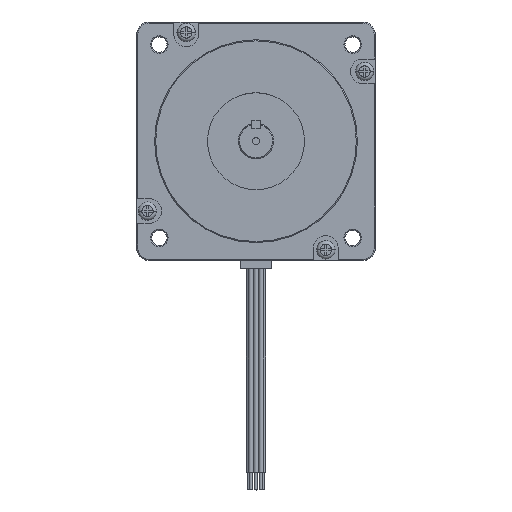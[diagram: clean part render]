
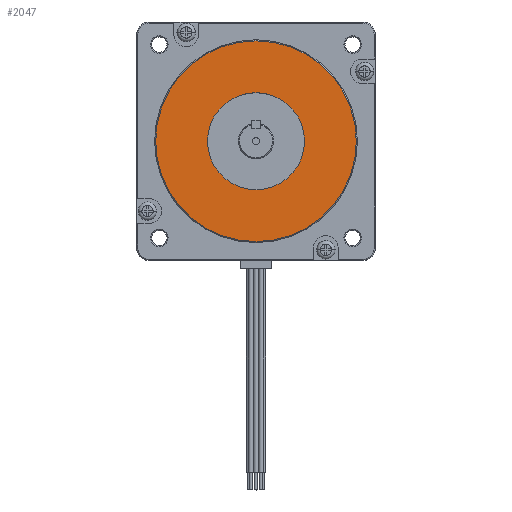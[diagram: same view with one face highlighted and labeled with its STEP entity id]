
A CAD part, top view. The second image highlights one B-rep face of the part: STEP entity #2047.
In plain terms, the highlighted planar face has unit normal (0, 0, 1).
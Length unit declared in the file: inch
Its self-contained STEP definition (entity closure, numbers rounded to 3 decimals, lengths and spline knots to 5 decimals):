
#97 = EDGE_CURVE ( 'NONE', #17895, #17919, #13749, .T. ) ;
#2047 = ADVANCED_FACE ( 'NONE', ( #4925, #4928 ), #4955, .T. ) ;
#2175 = EDGE_CURVE ( 'NONE', #17919, #17895, #5240, .T. ) ;
#2178 = ORIENTED_EDGE ( 'NONE', *, *, #2175, .T. ) ;
#2192 = EDGE_LOOP ( 'NONE', ( #2178, #2285 ) ) ;
#2285 = ORIENTED_EDGE ( 'NONE', *, *, #97, .T. ) ;
#2289 = ORIENTED_EDGE ( 'NONE', *, *, #3217, .F. ) ;
#2328 = ORIENTED_EDGE ( 'NONE', *, *, #2333, .F. ) ;
#2333 = EDGE_CURVE ( 'NONE', #3316, #3326, #5866, .T. ) ;
#2586 = EDGE_LOOP ( 'NONE', ( #2289, #2328 ) ) ;
#3217 = EDGE_CURVE ( 'NONE', #3326, #3316, #8658, .T. ) ;
#3316 = VERTEX_POINT ( 'NONE', #8936 ) ;
#3326 = VERTEX_POINT ( 'NONE', #8995 ) ;
#4925 = FACE_OUTER_BOUND ( 'NONE', #2192, .T. ) ;
#4928 = FACE_BOUND ( 'NONE', #2586, .T. ) ;
#4951 = DIRECTION ( 'NONE',  ( 1., 0., 0. ) ) ;
#4952 = DIRECTION ( 'NONE',  ( 0., 0., 1. ) ) ;
#4953 = CARTESIAN_POINT ( 'NONE',  ( 0., 0., 0.06 ) ) ;
#4954 = AXIS2_PLACEMENT_3D ( 'NONE', #4953, #4952, #4951 ) ;
#4955 = PLANE ( 'NONE',  #4954 ) ;
#5240 = CIRCLE ( 'NONE', #5258, 1.4225 ) ;
#5255 = DIRECTION ( 'NONE',  ( 1., 0., 0. ) ) ;
#5256 = DIRECTION ( 'NONE',  ( 0., 0., 1. ) ) ;
#5257 = CARTESIAN_POINT ( 'NONE',  ( 0., 0., 0.06 ) ) ;
#5258 = AXIS2_PLACEMENT_3D ( 'NONE', #5257, #5256, #5255 ) ;
#5866 = CIRCLE ( 'NONE', #5879, 0.6875 ) ;
#5879 = AXIS2_PLACEMENT_3D ( 'NONE', #5928, #5927, #5926 ) ;
#5926 = DIRECTION ( 'NONE',  ( 1., 0., 0. ) ) ;
#5927 = DIRECTION ( 'NONE',  ( 0., 0., 1. ) ) ;
#5928 = CARTESIAN_POINT ( 'NONE',  ( 0., 0., 0.06 ) ) ;
#8654 = DIRECTION ( 'NONE',  ( 1., 0., 0. ) ) ;
#8655 = DIRECTION ( 'NONE',  ( 0., 0., 1. ) ) ;
#8656 = CARTESIAN_POINT ( 'NONE',  ( 0., 0., 0.06 ) ) ;
#8657 = AXIS2_PLACEMENT_3D ( 'NONE', #8656, #8655, #8654 ) ;
#8658 = CIRCLE ( 'NONE', #8657, 0.6875 ) ;
#8936 = CARTESIAN_POINT ( 'NONE',  ( 0.6875, 0., 0.06 ) ) ;
#8995 = CARTESIAN_POINT ( 'NONE',  ( -0.6875, 0., 0.06 ) ) ;
#12983 = CARTESIAN_POINT ( 'NONE',  ( 1.4225, 0., 0.06 ) ) ;
#13041 = CARTESIAN_POINT ( 'NONE',  ( -1.4225, 0., 0.06 ) ) ;
#13736 = AXIS2_PLACEMENT_3D ( 'NONE', #13741, #13788, #13787 ) ;
#13741 = CARTESIAN_POINT ( 'NONE',  ( 0., 0., 0.06 ) ) ;
#13749 = CIRCLE ( 'NONE', #13736, 1.4225 ) ;
#13787 = DIRECTION ( 'NONE',  ( 1., 0., 0. ) ) ;
#13788 = DIRECTION ( 'NONE',  ( 0., 0., 1. ) ) ;
#17895 = VERTEX_POINT ( 'NONE', #12983 ) ;
#17919 = VERTEX_POINT ( 'NONE', #13041 ) ;
